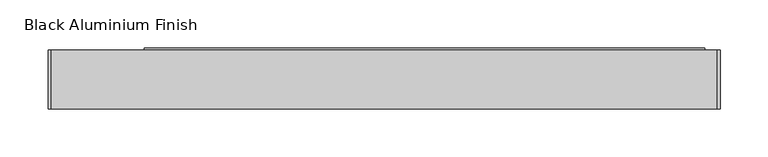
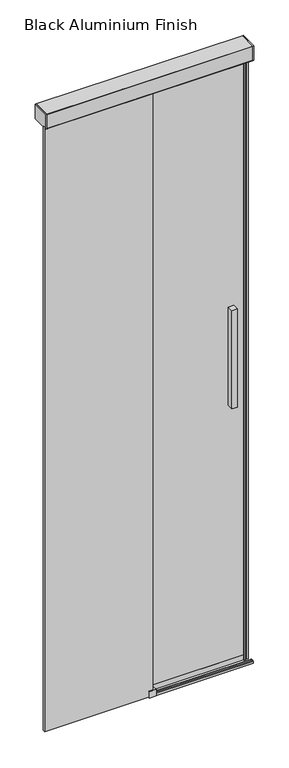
"""IFC4 building model written with IfcOpenShell, lengths in millimetres: flow terminal geometry, Sanitary_Shower-screens_Duscholux_D5Custom20_Slider-door-shower : Black Aluminium Finish."""

from ifc_helpers import new_model, si_unit, point, frame, frame_2d, origin, origin_with_axes, place, context, project, spatial, polyline, circle_curve, trimmed, segment, composite_curve, outline, extrude, source, transform, mapped, element, save
from ifc_brep_helpers import plane_surface, cylinder_surface, advanced_brep


def black_aluminium_finish_374d2aef(model_context):
    return source(origin(), model_context, "Body", "SolidModel", [
        extrude(outline(polyline([(642.5, 49.1037651), (642.5, 30.1037651), (623.5, 30.1037651), (623.5, 49.1037651), (642.5, 49.1037651)])), frame((0.0, 0.0, 925.0), z_axis=(0.0, 0.0, 1.0), x_axis=(1.0, 0.0, 0.0)), (0.0, 0.0, 1.0), 350.0),
        extrude(outline(polyline([(623.5, 1.1037651), (623.5, 22.1037651), (642.5, 22.1037651), (642.5, 1.1037651), (623.5, 1.1037651)])), frame((0.0, 0.0, 925.0), z_axis=(0.0, 0.0, 1.0), x_axis=(1.0, 0.0, 0.0)), (0.0, 0.0, 1.0), 350.0),
        extrude(outline(composite_curve([segment(polyline([(675.5476289, 30.9128627), (682.7182426, 30.4053189)]), True, "CONTINUOUS"), segment(trimmed(circle_curve(frame_2d((682.6476261, 29.5080908)), 0.9000028), [point((682.7182426, 30.4053189))], [point((683.5476289, 29.5080908))], False, "CARTESIAN"), True, "CONTINUOUS"), segment(polyline([(683.5476289, 29.5080908), (683.5476289, 22.7872011)]), True, "CONTINUOUS"), segment(trimmed(circle_curve(frame_2d((682.6476252, 22.7872011)), 0.9000037), [point((683.5476289, 22.7872011))], [point((682.7220863, 21.8902829))], False, "CARTESIAN"), True, "CONTINUOUS"), segment(polyline([(682.7220863, 21.8902829), (675.5476289, 21.2946674), (675.5476289, 22.1037651), (678.0, 22.1037651), (678.0, 30.1037651), (675.5476289, 30.1037651), (675.5476289, 30.9128627)]), True, "CONTINUOUS")], self_intersect=False)), origin_with_axes(), (0.0, 0.0, 1.0), 2148.0),
        extrude(outline(composite_curve([segment(polyline([(8.347801, 21.5402146), (16.6243907, 21.5402146)]), True, "CONTINUOUS"), segment(trimmed(circle_curve(frame_2d((16.6243907, 19.0504286)), 2.489786), [point((16.6243907, 21.5402146))], [point((19.0803554, 18.6414398))], False, "CARTESIAN"), True, "CONTINUOUS"), segment(polyline([(19.0803554, 18.6414398), (19.0803554, 2.0807973)]), True, "CONTINUOUS"), segment(trimmed(circle_curve(frame_2d((16.6243907, 2.489786)), 2.489786), [point((19.0803554, 2.0807973))], [point((16.6243907, 0.0))], False, "CARTESIAN"), True, "CONTINUOUS"), segment(polyline([(16.6243907, 0.0), (8.347801, 0.0), (8.347801, 21.5402146)]), True, "CONTINUOUS")], self_intersect=False)), frame((341.5, 0.0, 0.0), z_axis=(1.0, 0.0, 0.0), x_axis=(0.0, 1.0, 0.0)), (0.0, 0.0, 1.0), 22.9999001),
        extrude(outline(composite_curve([segment(polyline([(19.0803554, 2.0807973), (19.0803554, 17.6131339)]), True, "CONTINUOUS"), segment(trimmed(circle_curve(frame_2d((19.805295, 17.6131339)), 0.7249397), [point((19.0803554, 17.6131339))], [point((20.5302347, 17.6131339))], False, "CARTESIAN"), True, "CONTINUOUS"), segment(polyline([(20.5302347, 17.6131339), (20.5302347, 3.2469865), (21.1408922, 1.9374273), (31.1562845, 1.9374273), (31.1562845, 0.0), (16.6243907, 0.0)]), True, "CONTINUOUS"), segment(trimmed(circle_curve(frame_2d((16.6243907, 2.489786)), 2.489786), [point((16.6243907, 0.0))], [point((19.0803554, 2.0807973))], True, "CARTESIAN"), True, "CONTINUOUS")], self_intersect=False)), frame((342.5001216, 0.0, 0.0), z_axis=(1.0, 0.0, 0.0), x_axis=(0.0, 1.0, 0.0)), (0.0, 0.0, 1.0), 20.9999979),
        advanced_brep(
        [(342.0001505, 7.0474205, 23.0), (341.4996913, 6.5469613, 23.0), (341.4996913, 4.0978017, 23.0), (355.5, 4.0978017, 23.0), (355.5, -4.0021986, 23.0), (341.5000044, -4.0021986, 23.0), (341.5000044, -6.452187, 23.0), (341.999991, -6.9521737, 23.0), (363.9999481, -6.9521737, 23.0), (364.4999001, -6.4522216, 23.0), (364.4999001, 6.547611, 23.0), (364.0000906, 7.0474205, 23.0), (364.0000906, 7.0474205, 0.0), (364.4999001, 6.547611, 0.0), (364.4999001, -6.4522216, 0.0), (363.9999481, -6.9521737, 0.0), (341.999991, -6.9521737, 0.0), (341.5000044, -6.452187, 0.0), (341.5000044, -4.0021986, 0.0), (355.5, -4.0021986, 0.0), (355.5, 4.0978017, 0.0), (341.4996913, 4.0978017, 0.0), (341.4996913, 6.5469613, 0.0), (342.0001505, 7.0474205, 0.0), (342.5001216, 7.0474205, 0.0), (342.5001216, 8.347801, 0.0), (363.5001195, 8.347801, 0.0), (363.5001195, 7.0474205, 0.0), (363.5001195, 7.0474205, 18.6414398), (342.5001216, 7.0474205, 18.6414398), (363.5001195, 8.347801, 18.6414398), (342.5001216, 8.347801, 18.6414398)],
        [
            (0, 1, circle_curve(frame((342.0001505, 6.5469613, 23.0), z_axis=(0.0, 0.0, 1.0), x_axis=(1.0, 0.0, 0.0)), 0.5004592)),
            (1, 2),
            (2, 3),
            (3, 4),
            (4, 5),
            (5, 6),
            (6, 7, circle_curve(frame((341.999991, -6.452187, 23.0), z_axis=(0.0, 0.0, 1.0), x_axis=(1.0, 0.0, 0.0)), 0.4999866)),
            (7, 8),
            (8, 9, circle_curve(frame((363.9999481, -6.4522216, 23.0), z_axis=(0.0, 0.0, 1.0), x_axis=(1.0, 0.0, 0.0)), 0.499952)),
            (9, 10),
            (10, 11, circle_curve(frame((364.0000906, 6.547611, 23.0), z_axis=(0.0, 0.0, 1.0), x_axis=(1.0, 0.0, 0.0)), 0.4998095)),
            (11, 0),
            (12, 13, circle_curve(frame((364.0000906, 6.547611, 0.0), z_axis=(0.0, 0.0, -1.0), x_axis=(1.0, 0.0, 0.0)), 0.4998095)),
            (13, 14),
            (14, 15, circle_curve(frame((363.9999481, -6.4522216, 0.0), z_axis=(0.0, 0.0, -1.0), x_axis=(1.0, 0.0, 0.0)), 0.499952)),
            (15, 16),
            (16, 17, circle_curve(frame((341.999991, -6.452187, 0.0), z_axis=(0.0, 0.0, -1.0), x_axis=(1.0, 0.0, 0.0)), 0.4999866)),
            (17, 18),
            (18, 19),
            (19, 20),
            (20, 21),
            (21, 22),
            (22, 23, circle_curve(frame((342.0001505, 6.5469613, 0.0), z_axis=(0.0, 0.0, -1.0), x_axis=(1.0, 0.0, 0.0)), 0.5004592)),
            (23, 24),
            (24, 25),
            (25, 26),
            (26, 27),
            (27, 12),
            (0, 23),
            (22, 1),
            (21, 2),
            (20, 3),
            (19, 4),
            (18, 5),
            (17, 6),
            (16, 7),
            (15, 8),
            (14, 9),
            (13, 10),
            (12, 11),
            (27, 28),
            (28, 29),
            (29, 24),
            (30, 31),
            (31, 29),
            (28, 30),
            (30, 26),
            (25, 31),
        ],
        [
            plane_surface(frame((342.5006097, 6.5469613, 23.0), z_axis=(0.0, 0.0, 1.0), x_axis=(0.0, 1.0, 0.0))),
            plane_surface(frame((342.5006097, 6.5469613, 0.0), z_axis=(0.0, 0.0, -1.0), x_axis=(0.0, -1.0, 0.0))),
            cylinder_surface(frame((342.0001505, 6.5469613, 0.0), z_axis=(0.0, 0.0, 1.0), x_axis=(1.0, 0.0, 0.0)), 0.5004592),
            plane_surface(frame((341.4996913, 6.5469613, 23.0), z_axis=(-1.0, 0.0, 0.0), x_axis=(0.0, 0.0, -1.0))),
            plane_surface(frame((341.4996913, 4.0978017, 23.0), z_axis=(0.0, -1.0, 0.0), x_axis=(0.0, 0.0, -1.0))),
            plane_surface(frame((355.5, 4.0978017, 23.0), z_axis=(-1.0, 0.0, 0.0), x_axis=(0.0, 0.0, -1.0))),
            plane_surface(frame((355.5, -4.0021986, 23.0), z_axis=(0.0, 1.0, 0.0), x_axis=(0.0, 0.0, -1.0))),
            plane_surface(frame((341.5000044, -4.0021986, 23.0), z_axis=(-1.0, 0.0, 0.0), x_axis=(0.0, 0.0, -1.0))),
            cylinder_surface(frame((341.999991, -6.452187, 0.0), z_axis=(0.0, 0.0, 1.0), x_axis=(1.0, 0.0, 0.0)), 0.4999866),
            plane_surface(frame((341.999991, -6.9521737, 23.0), z_axis=(0.0, -1.0, 0.0), x_axis=(0.0, 0.0, -1.0))),
            cylinder_surface(frame((363.9999481, -6.4522216, 0.0), z_axis=(0.0, 0.0, 1.0), x_axis=(1.0, 0.0, 0.0)), 0.499952),
            plane_surface(frame((364.4999001, -6.4522216, 23.0), z_axis=(1.0, -1.1401488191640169e-12, 0.0), x_axis=(0.0, 0.0, -1.0))),
            cylinder_surface(frame((364.0000906, 6.547611, 0.0), z_axis=(0.0, 0.0, 1.0), x_axis=(1.0, 0.0, 0.0)), 0.4998095),
            plane_surface(frame((364.0000906, 7.0474205, 23.0), z_axis=(0.0, 1.0, 0.0), x_axis=(0.0, 0.0, -1.0))),
            plane_surface(frame((342.5001216, 8.347801, 18.6414398), z_axis=(0.0, 0.0, 1.0), x_axis=(-1.0, 0.0, 0.0))),
            plane_surface(frame((363.5001195, 8.347801, 18.6414398), z_axis=(0.0, 1.0, 0.0), x_axis=(0.0, 0.0, -1.0))),
            plane_surface(frame((342.5001216, 8.347801, 18.6414398), z_axis=(-1.0, 0.0, 0.0), x_axis=(0.0, 0.0, -1.0))),
            plane_surface(frame((363.5001195, 7.0474205, 18.6414398), z_axis=(1.0, 0.0, 0.0), x_axis=(0.0, 0.0, -1.0))),
        ],
        [
            (0, [[1, 2, 3, 4, 5, 6, 7, 8, 9, 10, 11, 12]]),
            (1, [[13, 14, 15, 16, 17, 18, 19, 20, 21, 22, 23, 24, 25, 26, 27, 28]]),
            (2, [[-1, 29, -23, 30]]),
            (3, [[-2, -30, -22, 31]]),
            (4, [[-3, -31, -21, 32]]),
            (5, [[-4, -32, -20, 33]]),
            (6, [[-5, -33, -19, 34]]),
            (7, [[-6, -34, -18, 35]]),
            (8, [[-7, -35, -17, 36]]),
            (9, [[-8, -36, -16, 37]]),
            (10, [[-9, -37, -15, 38]]),
            (11, [[-10, -38, -14, 39]]),
            (12, [[-11, -39, -13, 40]]),
            (13, [[-12, -40, -28, 41, 42, 43, -24, -29]]),
            (14, [[44, 45, -42, 46]]),
            (15, [[-44, 47, -26, 48]]),
            (16, [[-45, -48, -25, -43]]),
            (17, [[-46, -41, -27, -47]]),
        ],
    ),
        extrude(outline(polyline([(-9.9932071, 2200.0), (51.0033965, 2200.0), (51.0033965, 2148.0), (5.5033965, 2148.0), (5.5033965, 2153.1539965), (-5.4966035, 2153.1539965), (-5.4966035, 2148.0), (-9.9932071, 2148.0), (-9.9932071, 2200.0)])), frame((-8.5, 0.0, 0.0), z_axis=(1.0, 0.0, 0.0), x_axis=(0.0, 1.0, 0.0)), (0.0, 0.0, 1.0), 3.0),
        extrude(outline(polyline([(691.5, 51.0033965), (691.5, -9.9932071), (688.5, -9.9932071), (688.5, 51.0033965), (691.5, 51.0033965)])), frame((0.0, 0.0, 2148.0), z_axis=(0.0, 0.0, 1.0), x_axis=(1.0, 0.0, 0.0)), (0.0, 0.0, 1.0), 52.0),
        extrude(outline(polyline([(51.0033965, 2200.0), (51.0033965, 2148.0), (30.9128627, 2148.0), (30.9128627, 2151.5002022), (33.5355184, 2151.5002022), (42.4033965, 2151.5002022), (42.4033965, 2189.3716055), (7.8033965, 2189.3716055), (7.8033965, 2151.5002022), (21.3824285, 2151.5002022), (21.3824285, 2148.0), (5.5033965, 2148.0), (5.5033965, 2153.1539965), (-5.4966035, 2153.1539965), (-5.4966035, 2148.0), (-9.9932071, 2148.0), (-9.9932071, 2149.1236427), (-7.5, 2149.1236427), (-7.5, 2199.0), (-9.9932071, 2199.0), (-9.9932071, 2200.0), (51.0033965, 2200.0)])), frame((-5.5, 0.0, 0.0), z_axis=(1.0, 0.0, 0.0), x_axis=(0.0, 1.0, 0.0)), (0.0, 0.0, 1.0), 694.0),
        extrude(outline(composite_curve([segment(polyline([(684.3293863, 30.4053189), (691.5, 30.9128627), (691.5, 21.3824285), (684.3293863, 21.8899721)]), True, "CONTINUOUS"), segment(trimmed(circle_curve(frame_2d((684.4000037, 22.7872011)), 0.9000037), [point((684.3293863, 21.8899721))], [point((683.5, 22.7872011))], False, "CARTESIAN"), True, "CONTINUOUS"), segment(polyline([(683.5, 22.7872011), (683.5, 29.5080908)]), True, "CONTINUOUS"), segment(trimmed(circle_curve(frame_2d((684.4000028, 29.5080908)), 0.9000028), [point((683.5, 29.5080908))], [point((684.3293863, 30.4053189))], False, "CARTESIAN"), True, "CONTINUOUS")], self_intersect=False)), origin_with_axes(), (0.0, 0.0, 1.0), 2148.0),
        extrude(outline(polyline([(688.5, -7.5), (688.5, -9.9966035), (-5.5, -9.9966035), (-5.5, -7.5), (688.5, -7.5)])), frame((0.0, 0.0, 2149.1236427), z_axis=(0.0, 0.0, 1.0), x_axis=(1.0, 0.0, 0.0)), (0.0, 0.0, 1.0), 49.8763573),
        extrude(outline(polyline([(678.0, 30.1037651), (678.0, 22.1037651), (91.7, 22.1037651), (91.7, 30.1037651), (678.0, 30.1037651)])), frame((0.0, 0.0, 3.2469865), z_axis=(0.0, 0.0, 1.0), x_axis=(1.0, 0.0, 0.0)), (0.0, 0.0, 1.0), 2144.7530135),
        extrude(outline(polyline([(355.5, 4.0), (355.5, -4.0), (-8.5, -4.0), (-8.5, 4.0), (355.5, 4.0)])), frame((0.0, 0.0, 1.9374273), z_axis=(0.0, 0.0, 1.0), x_axis=(1.0, 0.0, 0.0)), (0.0, 0.0, 1.0), 2151.2165692),
        extrude(outline(composite_curve([segment(polyline([(30.6131498, 19.9568124), (53.6037651, 7.9389907), (53.6037651, 1.0064421)]), True, "CONTINUOUS"), segment(trimmed(circle_curve(frame_2d((52.944419, 1.7845861)), 1.0199242), [point((53.6037651, 1.0064421))], [point((52.1037651, 1.2070516))], False, "CARTESIAN"), True, "CONTINUOUS"), segment(polyline([(52.1037651, 1.2070516), (52.1037651, 6.9203995), (32.1210134, 16.5145555)]), True, "CONTINUOUS"), segment(trimmed(circle_curve(frame_2d((31.9902848, 15.6908647)), 0.8340003), [point((32.1210134, 16.5145555))], [point((31.1562845, 15.6908647))], True, "CARTESIAN"), True, "CONTINUOUS"), segment(polyline([(31.1562845, 15.6908647), (31.1562845, 1.9374273), (21.2220364, 1.9374273), (21.2220364, 19.7566708), (22.1037651, 19.8593613), (22.1037651, 3.2469865), (30.1037651, 3.2469865), (30.1037651, 18.4203995), (29.8651934, 19.3404191)]), True, "CONTINUOUS"), segment(trimmed(circle_curve(frame_2d((30.3694265, 19.4905592)), 0.5261113), [point((29.8651934, 19.3404191))], [point((30.6131498, 19.9568124))], False, "CARTESIAN"), True, "CONTINUOUS")], self_intersect=False)), frame((91.7, 0.0, 0.0), z_axis=(1.0, 0.0, 0.0), x_axis=(0.0, 1.0, 0.0)), (0.0, 0.0, 1.0), 583.8476289),
        extrude(outline(composite_curve([segment(polyline([(-5.0029067, 0.0), (-5.0029067, 7.5785532)]), True, "CONTINUOUS"), segment(trimmed(circle_curve(frame_2d((-2.5380839, 7.5785532)), 2.4648227), [point((-5.0029067, 7.5785532))], [point((-2.5380839, 10.0433759))], False, "CARTESIAN"), True, "CONTINUOUS"), segment(polyline([(-2.5380839, 10.0433759), (2.5963714, 10.0433759)]), True, "CONTINUOUS"), segment(trimmed(circle_curve(frame_2d((2.5963714, 7.5736469)), 2.4697291), [point((2.5963714, 10.0433759))], [point((5.0661005, 7.5736469))], False, "CARTESIAN"), True, "CONTINUOUS"), segment(polyline([(5.0661005, 7.5736469), (5.0661005, 0.0), (-5.0029067, 0.0)]), True, "CONTINUOUS")], self_intersect=False)), frame((364.4999001, 0.0, 0.0), z_axis=(1.0, 0.0, 0.0), x_axis=(0.0, 1.0, 0.0)), (0.0, 0.0, 1.0), 327.0000999),
    ])


if __name__ == "__main__":
    model = new_model("IFC4")
    model_context = context("Model", 3, world=origin())
    ifc_project = project(units=[si_unit("LENGTHUNIT", "METRE", prefix="MILLI")], contexts=[model_context])
    site = spatial("IfcSite", under=ifc_project)
    building = spatial("IfcBuilding", under=site)
    placement = place(None, origin())
    black_aluminium_finish_shape = black_aluminium_finish_374d2aef(model_context)
    element("IfcFlowTerminal", 1, ObjectType="Sanitary_Shower-screens_Duscholux_D5Custom20_Slider-door-shower : Black Aluminium Finish", at=placement, inside=building, context=model_context, shape_type="MappedRepresentation", body=[
        mapped(black_aluminium_finish_shape, transform((0.0, 0.0, 0.0), x_axis=(1.0, 0.0, 0.0), y_axis=(0.0, 1.0, 0.0), z_axis=(0.0, 0.0, 1.0))),
    ])
    save(model, "model.ifc")
